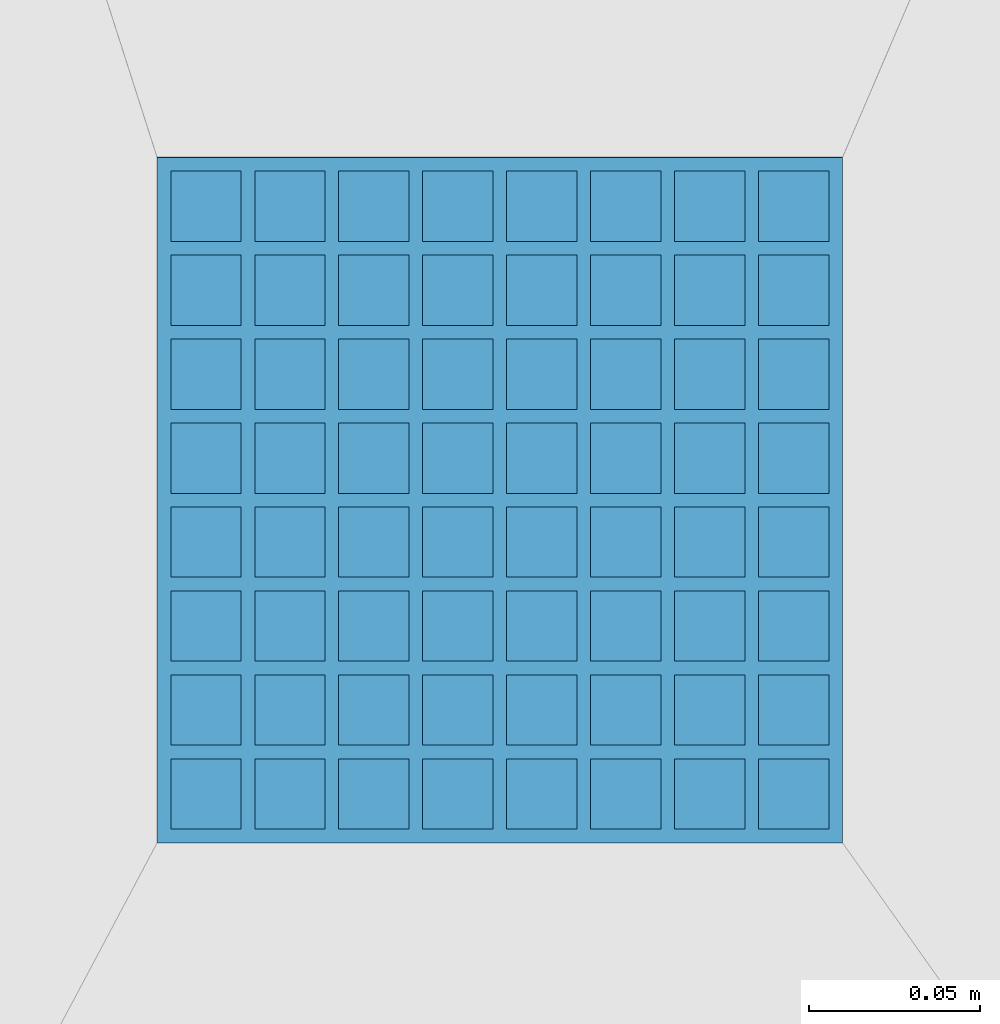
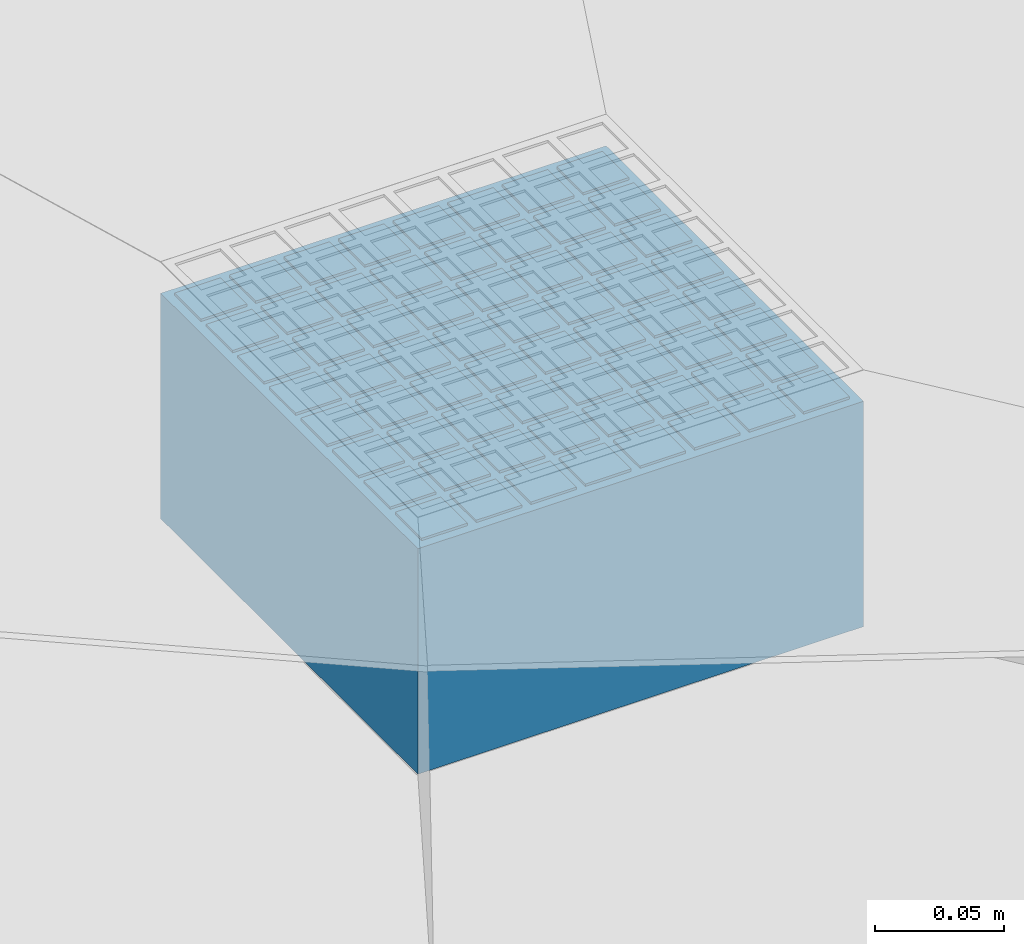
# One storey, part 150 of 418: 1 building element part, 1 element without a shape of its own.
"""IFC2X3 building model written with IfcOpenShell, lengths in millimetres."""

from ifc_helpers import new_model, entity, si_unit, converted_unit, derived_unit, money_unit, direction, frame, origin_with_axes, place, context, subcontext, project, spatial, polyline, outline, extrude, boolean, faceted_brep, material, type_object, element, aggregate, save


model = new_model("IFC2X3")

# Units and contexts
model_context = context("Model", 3, precision=0.01, world=origin_with_axes(), true_north=direction((0.0, 1.0)))
body_context = subcontext(model_context, "Body", "Model", "MODEL_VIEW")
ifc_project = project(units=[si_unit("LENGTHUNIT", "METRE", prefix="MILLI"), si_unit("AREAUNIT", "SQUARE_METRE"), si_unit("VOLUMEUNIT", "CUBIC_METRE"), converted_unit("PLANEANGLEUNIT", "DEGREE", entity("IfcPlaneAngleMeasure", 0.0174532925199), si_unit("PLANEANGLEUNIT", "RADIAN"), dimensions=[0, 0, 0, 0, 0, 0, 0]), si_unit("SOLIDANGLEUNIT", "STERADIAN"), money_unit("EUR"), converted_unit("TIMEUNIT", "Year", entity("IfcTimeMeasure", 31556926.0), si_unit("TIMEUNIT", "SECOND"), dimensions=[0, 0, 1, 0, 0, 0, 0]), si_unit("MASSUNIT", "GRAM", prefix="KILO"), si_unit("THERMODYNAMICTEMPERATUREUNIT", "DEGREE_CELSIUS"), si_unit("LUMINOUSINTENSITYUNIT", "LUMEN"), si_unit("ENERGYUNIT", "JOULE", prefix="MEGA"), derived_unit("THERMALCONDUCTANCEUNIT", [(si_unit("POWERUNIT", "WATT"), 1), (si_unit("LENGTHUNIT", "METRE"), -1), (si_unit("THERMODYNAMICTEMPERATUREUNIT", "KELVIN"), -1)]), derived_unit("SPECIFICHEATCAPACITYUNIT", [(si_unit("ENERGYUNIT", "JOULE"), 1), (si_unit("MASSUNIT", "GRAM", prefix="KILO"), -1), (si_unit("THERMODYNAMICTEMPERATUREUNIT", "KELVIN"), -1)]), derived_unit("MASSDENSITYUNIT", [(si_unit("MASSUNIT", "GRAM", prefix="KILO"), 1), (si_unit("VOLUMEUNIT", "CUBIC_METRE"), -1)])], contexts=[model_context])

# Site, building, storey
site_placement = place(None, origin_with_axes())
site = spatial("IfcSite", under=ifc_project, at=site_placement, Name="Paldiski mnt 245/1, Tallinn, Harjumaa", CompositionType="COMPLEX")
building_placement = place(site_placement, origin_with_axes())
building = spatial("IfcBuilding", under=site, at=building_placement, Name="RKAS Hoone üldnimetus (kasutust iseloomustav) -> IFC Project Manager -> SOLIBRI", CompositionType="ELEMENT")
storey_placement = place(building_placement, origin_with_axes())
storey = spatial("IfcBuildingStorey", under=building, at=storey_placement, Name="Esimene korrus", CompositionType="ELEMENT", Elevation=0.0)

# Plate, building element part
plate_type = type_object("IfcPlateType", Name="AP-02 pealiskihid 222", PredefinedType="NOTDEFINED")
plate_placement = place(storey_placement, frame((-55989.9999767, 995.071901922, 177.902209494), z_axis=(0.0, 0.0, 1.0), x_axis=(1.0, 0.0, 0.0)))
plate = element("IfcPlate", 1, at=plate_placement, inside=storey, type_object=plate_type, Name="Põranda soojustus")
ifc_material = material(Name="Põhisoojustus, Eurothane Silver E 120 mm")
building_element_part_placement = place(plate_placement, origin_with_axes())
building_element_part = element("IfcBuildingElementPart", 2, at=building_element_part_placement, material=ifc_material, Name="Põhisoojustus, Eurothane Silver E 120 mm", context=body_context, shape_type="CSG", body=[
    boolean("DIFFERENCE", boolean("DIFFERENCE", boolean("DIFFERENCE", extrude(outline(polyline([(200.0, 0.0), (0.0, 0.0), (0.0, -200.071908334), (200.0, -200.071908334), (200.0, 0.0)])), frame((0.0, 0.0, 100.0), z_axis=(0.0, 0.0, 1.0), x_axis=(1.0, 0.0, 0.0)), (0.0, 0.0, 1.0), 120.0), faceted_brep([(0.0, 0.0, 23.0977905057), (200.0, 0.0, 23.0977905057), (200.0, 0.0, 0.0), (0.0, 0.0, 0.0), (200.0, -200.071908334, 23.0977905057), (0.0, -200.071908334, 23.0977905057), (200.0, -200.071908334, 0.0), (0.0, -200.071908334, 0.0)], [[[0, 1, 2, 3]], [[4, 1, 0, 5]], [[1, 4, 6, 2]], [[3, 2, 6, 7]], [[5, 0, 3, 7]], [[4, 5, 7, 6]]])), faceted_brep([(200.0, -200.071908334, 207.0), (200.0, -0.0719083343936, 207.0), (200.0, -0.0719083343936, 220.0), (200.0, -200.071908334, 220.0), (3.99999999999, -196.071908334, 207.0), (0.0, -200.071908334, 207.0), (0.0, -0.0719083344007, 207.0), (196.0, -196.071908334, 207.0), (196.0, -175.571908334, 207.0), (196.0, -171.571908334, 207.0), (196.0, -151.071908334, 207.0), (196.0, -147.071908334, 207.0), (196.0, -126.571908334, 207.0), (196.0, -122.571908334, 207.0), (196.0, -102.071908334, 207.0), (196.0, -98.0719083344, 207.0), (196.0, -77.5719083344, 207.0), (196.0, -73.5719083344, 207.0), (196.0, -53.0719083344, 207.0), (196.0, -49.0719083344, 207.0), (196.0, -28.5719083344, 207.0), (196.0, -24.5719083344, 207.0), (196.0, -4.07190833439, 207.0), (175.5, -4.07190833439, 207.0), (171.5, -4.07190833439, 207.0), (151.0, -4.0719083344, 207.0), (147.0, -4.0719083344, 207.0), (126.5, -4.0719083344, 207.0), (122.5, -4.0719083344, 207.0), (102.0, -4.0719083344, 207.0), (98.0, -4.0719083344, 207.0), (77.5, -4.0719083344, 207.0), (73.5, -4.0719083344, 207.0), (53.0, -4.0719083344, 207.0), (49.0, -4.0719083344, 207.0), (28.5, -4.0719083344, 207.0), (24.5, -4.0719083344, 207.0), (3.99999999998, -4.0719083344, 207.0), (3.99999999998, -24.5719083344, 207.0), (3.99999999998, -28.5719083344, 207.0), (3.99999999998, -49.0719083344, 207.0), (3.99999999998, -53.0719083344, 207.0), (3.99999999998, -73.5719083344, 207.0), (3.99999999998, -77.5719083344, 207.0), (3.99999999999, -98.0719083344, 207.0), (3.99999999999, -102.071908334, 207.0), (3.99999999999, -122.571908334, 207.0), (3.99999999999, -126.571908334, 207.0), (3.99999999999, -147.071908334, 207.0), (3.99999999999, -151.071908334, 207.0), (3.99999999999, -171.571908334, 207.0), (3.99999999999, -175.571908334, 207.0), (0.0, -0.0719083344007, 220.0), (0.0, -200.071908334, 220.0), (24.5, -196.071908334, 207.0), (24.5, -175.571908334, 207.0), (24.5, -171.571908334, 207.0), (24.5, -151.071908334, 207.0), (24.5, -147.071908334, 207.0), (24.5, -126.571908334, 207.0), (24.5, -122.571908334, 207.0), (24.5, -102.071908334, 207.0), (24.5, -98.0719083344, 207.0), (24.5, -77.5719083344, 207.0), (24.5, -73.5719083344, 207.0), (24.5, -53.0719083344, 207.0), (24.5, -49.0719083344, 207.0), (24.5, -28.5719083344, 207.0), (24.5, -24.5719083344, 207.0), (28.5, -24.5719083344, 207.0), (28.5, -28.5719083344, 207.0), (28.5, -49.0719083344, 207.0), (28.5, -53.0719083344, 207.0), (28.5, -73.5719083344, 207.0), (28.5, -77.5719083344, 207.0), (28.5, -98.0719083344, 207.0), (28.5, -102.071908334, 207.0), (28.5, -122.571908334, 207.0), (28.5, -126.571908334, 207.0), (28.5, -147.071908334, 207.0), (28.5, -151.071908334, 207.0), (28.5, -171.571908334, 207.0), (28.5, -175.571908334, 207.0), (28.5, -196.071908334, 207.0), (49.0, -196.071908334, 207.0), (49.0, -175.571908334, 207.0), (49.0, -171.571908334, 207.0), (49.0, -151.071908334, 207.0), (49.0, -147.071908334, 207.0), (49.0, -126.571908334, 207.0), (49.0, -122.571908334, 207.0), (49.0, -102.071908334, 207.0), (49.0, -98.0719083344, 207.0), (49.0, -77.5719083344, 207.0), (49.0, -73.5719083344, 207.0), (49.0, -53.0719083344, 207.0), (49.0, -49.0719083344, 207.0), (49.0, -28.5719083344, 207.0), (49.0, -24.5719083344, 207.0), (53.0, -24.5719083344, 207.0), (53.0, -28.5719083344, 207.0), (53.0, -49.0719083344, 207.0), (53.0, -53.0719083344, 207.0), (53.0, -73.5719083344, 207.0), (53.0, -77.5719083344, 207.0), (53.0, -98.0719083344, 207.0), (53.0, -102.071908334, 207.0), (53.0, -122.571908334, 207.0), (53.0, -126.571908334, 207.0), (53.0, -147.071908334, 207.0), (53.0, -151.071908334, 207.0), (53.0, -171.571908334, 207.0), (53.0, -175.571908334, 207.0), (53.0, -196.071908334, 207.0), (73.5, -196.071908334, 207.0), (73.5, -175.571908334, 207.0), (73.5, -171.571908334, 207.0), (73.5, -151.071908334, 207.0), (73.5, -147.071908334, 207.0), (73.5, -126.571908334, 207.0), (73.5, -122.571908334, 207.0), (73.5, -102.071908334, 207.0), (73.5, -98.0719083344, 207.0), (73.5, -77.5719083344, 207.0), (73.5, -73.5719083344, 207.0), (73.5, -53.0719083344, 207.0), (73.5, -49.0719083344, 207.0), (73.5, -28.5719083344, 207.0), (73.5, -24.5719083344, 207.0), (77.5, -24.5719083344, 207.0), (77.5, -28.5719083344, 207.0), (77.5, -49.0719083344, 207.0), (77.5, -53.0719083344, 207.0), (77.5, -73.5719083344, 207.0), (77.5, -77.5719083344, 207.0), (77.5, -98.0719083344, 207.0), (77.5, -102.071908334, 207.0), (77.5, -122.571908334, 207.0), (77.5, -126.571908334, 207.0), (77.5, -147.071908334, 207.0), (77.5, -151.071908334, 207.0), (77.5, -171.571908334, 207.0), (77.5, -175.571908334, 207.0), (77.5, -196.071908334, 207.0), (98.0, -196.071908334, 207.0), (98.0, -175.571908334, 207.0), (98.0, -171.571908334, 207.0), (98.0, -151.071908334, 207.0), (98.0, -147.071908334, 207.0), (98.0, -126.571908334, 207.0), (98.0, -122.571908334, 207.0), (98.0, -102.071908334, 207.0), (98.0, -98.0719083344, 207.0), (98.0, -77.5719083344, 207.0), (98.0, -73.5719083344, 207.0), (98.0, -53.0719083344, 207.0), (98.0, -49.0719083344, 207.0), (98.0, -28.5719083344, 207.0), (98.0, -24.5719083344, 207.0), (102.0, -24.5719083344, 207.0), (102.0, -28.5719083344, 207.0), (102.0, -49.0719083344, 207.0), (102.0, -53.0719083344, 207.0), (102.0, -73.5719083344, 207.0), (102.0, -77.5719083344, 207.0), (102.0, -98.0719083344, 207.0), (102.0, -102.071908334, 207.0), (102.0, -122.571908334, 207.0), (102.0, -126.571908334, 207.0), (102.0, -147.071908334, 207.0), (102.0, -151.071908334, 207.0), (102.0, -171.571908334, 207.0), (102.0, -175.571908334, 207.0), (102.0, -196.071908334, 207.0), (122.5, -196.071908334, 207.0), (122.5, -175.571908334, 207.0), (122.5, -171.571908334, 207.0), (122.5, -151.071908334, 207.0), (122.5, -147.071908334, 207.0), (122.5, -126.571908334, 207.0), (122.5, -122.571908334, 207.0), (122.5, -102.071908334, 207.0), (122.5, -98.0719083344, 207.0), (122.5, -77.5719083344, 207.0), (122.5, -73.5719083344, 207.0), (122.5, -53.0719083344, 207.0), (122.5, -49.0719083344, 207.0), (122.5, -28.5719083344, 207.0), (122.5, -24.5719083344, 207.0), (126.5, -24.5719083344, 207.0), (126.5, -28.5719083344, 207.0), (126.5, -49.0719083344, 207.0), (126.5, -53.0719083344, 207.0), (126.5, -73.5719083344, 207.0), (126.5, -77.5719083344, 207.0), (126.5, -98.0719083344, 207.0), (126.5, -102.071908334, 207.0), (126.5, -122.571908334, 207.0), (126.5, -126.571908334, 207.0), (126.5, -147.071908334, 207.0), (126.5, -151.071908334, 207.0), (126.5, -171.571908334, 207.0), (126.5, -175.571908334, 207.0), (126.5, -196.071908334, 207.0), (147.0, -196.071908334, 207.0), (147.0, -175.571908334, 207.0), (147.0, -171.571908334, 207.0), (147.0, -151.071908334, 207.0), (147.0, -147.071908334, 207.0), (147.0, -126.571908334, 207.0), (147.0, -122.571908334, 207.0), (147.0, -102.071908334, 207.0), (147.0, -98.0719083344, 207.0), (147.0, -77.5719083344, 207.0), (147.0, -73.5719083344, 207.0), (147.0, -53.0719083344, 207.0), (147.0, -49.0719083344, 207.0), (147.0, -28.5719083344, 207.0), (147.0, -24.5719083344, 207.0), (151.0, -24.5719083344, 207.0), (151.0, -28.5719083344, 207.0), (151.0, -49.0719083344, 207.0), (151.0, -53.0719083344, 207.0), (151.0, -73.5719083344, 207.0), (151.0, -77.5719083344, 207.0), (151.0, -98.0719083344, 207.0), (151.0, -102.071908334, 207.0), (151.0, -122.571908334, 207.0), (151.0, -126.571908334, 207.0), (151.0, -147.071908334, 207.0), (151.0, -151.071908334, 207.0), (151.0, -171.571908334, 207.0), (151.0, -175.571908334, 207.0), (151.0, -196.071908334, 207.0), (171.5, -196.071908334, 207.0), (171.5, -175.571908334, 207.0), (171.5, -171.571908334, 207.0), (171.5, -151.071908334, 207.0), (171.5, -147.071908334, 207.0), (171.5, -126.571908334, 207.0), (171.5, -122.571908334, 207.0), (171.5, -102.071908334, 207.0), (171.5, -98.0719083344, 207.0), (171.5, -77.5719083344, 207.0), (171.5, -73.5719083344, 207.0), (171.5, -53.0719083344, 207.0), (171.5, -49.0719083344, 207.0), (171.5, -28.5719083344, 207.0), (171.5, -24.5719083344, 207.0), (175.5, -24.5719083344, 207.0), (175.5, -28.5719083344, 207.0), (175.5, -49.0719083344, 207.0), (175.5, -53.0719083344, 207.0), (175.5, -73.5719083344, 207.0), (175.5, -77.5719083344, 207.0), (175.5, -98.0719083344, 207.0), (175.5, -102.071908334, 207.0), (175.5, -122.571908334, 207.0), (175.5, -126.571908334, 207.0), (175.5, -147.071908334, 207.0), (175.5, -151.071908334, 207.0), (175.5, -171.571908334, 207.0), (175.5, -175.571908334, 207.0), (175.5, -196.071908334, 207.0), (196.0, -196.071908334, 208.15), (196.0, -175.571908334, 208.15), (196.0, -171.571908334, 208.15), (196.0, -151.071908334, 208.15), (196.0, -147.071908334, 208.15), (196.0, -126.571908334, 208.15), (196.0, -122.571908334, 208.15), (196.0, -102.071908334, 208.15), (196.0, -98.0719083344, 208.15), (196.0, -77.5719083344, 208.15), (196.0, -73.5719083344, 208.15), (196.0, -53.0719083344, 208.15), (196.0, -49.0719083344, 208.15), (196.0, -28.5719083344, 208.15), (196.0, -24.5719083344, 208.15), (196.0, -4.07190833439, 208.15), (175.5, -4.07190833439, 208.15), (171.5, -4.07190833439, 208.15), (151.0, -4.0719083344, 208.15), (147.0, -4.0719083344, 208.15), (126.5, -4.0719083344, 208.15), (122.5, -4.0719083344, 208.15), (102.0, -4.0719083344, 208.15), (98.0, -4.0719083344, 208.15), (77.5, -4.0719083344, 208.15), (73.5, -4.0719083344, 208.15), (53.0, -4.0719083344, 208.15), (49.0, -4.0719083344, 208.15), (28.5, -4.0719083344, 208.15), (24.5, -4.0719083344, 208.15), (3.99999999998, -4.0719083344, 208.15), (3.99999999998, -24.5719083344, 208.15), (3.99999999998, -28.5719083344, 208.15), (3.99999999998, -49.0719083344, 208.15), (3.99999999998, -53.0719083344, 208.15), (3.99999999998, -73.5719083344, 208.15), (3.99999999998, -77.5719083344, 208.15), (3.99999999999, -98.0719083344, 208.15), (3.99999999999, -102.071908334, 208.15), (3.99999999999, -122.571908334, 208.15), (3.99999999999, -126.571908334, 208.15), (3.99999999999, -147.071908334, 208.15), (3.99999999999, -151.071908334, 208.15), (3.99999999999, -171.571908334, 208.15), (3.99999999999, -175.571908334, 208.15), (3.99999999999, -196.071908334, 208.15), (24.5, -196.071908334, 208.15), (24.5, -175.571908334, 208.15), (24.5, -171.571908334, 208.15), (24.5, -151.071908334, 208.15), (24.5, -147.071908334, 208.15), (24.5, -126.571908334, 208.15), (24.5, -122.571908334, 208.15), (24.5, -102.071908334, 208.15), (24.5, -98.0719083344, 208.15), (24.5, -77.5719083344, 208.15), (24.5, -73.5719083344, 208.15), (24.5, -53.0719083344, 208.15), (24.5, -49.0719083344, 208.15), (24.5, -28.5719083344, 208.15), (24.5, -24.5719083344, 208.15), (28.5, -24.5719083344, 208.15), (28.5, -28.5719083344, 208.15), (28.5, -49.0719083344, 208.15), (28.5, -53.0719083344, 208.15), (28.5, -73.5719083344, 208.15), (28.5, -77.5719083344, 208.15), (28.5, -98.0719083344, 208.15), (28.5, -102.071908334, 208.15), (28.5, -122.571908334, 208.15), (28.5, -126.571908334, 208.15), (28.5, -147.071908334, 208.15), (28.5, -151.071908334, 208.15), (28.5, -171.571908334, 208.15), (28.5, -175.571908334, 208.15), (28.5, -196.071908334, 208.15), (49.0, -196.071908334, 208.15), (49.0, -175.571908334, 208.15), (49.0, -171.571908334, 208.15), (49.0, -151.071908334, 208.15), (49.0, -147.071908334, 208.15), (49.0, -126.571908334, 208.15), (49.0, -122.571908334, 208.15), (49.0, -102.071908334, 208.15), (49.0, -98.0719083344, 208.15), (49.0, -77.5719083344, 208.15), (49.0, -73.5719083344, 208.15), (49.0, -53.0719083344, 208.15), (49.0, -49.0719083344, 208.15), (49.0, -28.5719083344, 208.15), (49.0, -24.5719083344, 208.15), (53.0, -24.5719083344, 208.15), (53.0, -28.5719083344, 208.15), (53.0, -49.0719083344, 208.15), (53.0, -53.0719083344, 208.15), (53.0, -73.5719083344, 208.15), (53.0, -77.5719083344, 208.15), (53.0, -98.0719083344, 208.15), (53.0, -102.071908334, 208.15), (53.0, -122.571908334, 208.15), (53.0, -126.571908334, 208.15), (53.0, -147.071908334, 208.15), (53.0, -151.071908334, 208.15), (53.0, -171.571908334, 208.15), (53.0, -175.571908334, 208.15), (53.0, -196.071908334, 208.15), (73.5, -196.071908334, 208.15), (73.5, -175.571908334, 208.15), (73.5, -171.571908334, 208.15), (73.5, -151.071908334, 208.15), (73.5, -147.071908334, 208.15), (73.5, -126.571908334, 208.15), (73.5, -122.571908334, 208.15), (73.5, -102.071908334, 208.15), (73.5, -98.0719083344, 208.15), (73.5, -77.5719083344, 208.15), (73.5, -73.5719083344, 208.15), (73.5, -53.0719083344, 208.15), (73.5, -49.0719083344, 208.15), (73.5, -28.5719083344, 208.15), (73.5, -24.5719083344, 208.15), (77.5, -24.5719083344, 208.15), (77.5, -28.5719083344, 208.15), (77.5, -49.0719083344, 208.15), (77.5, -53.0719083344, 208.15), (77.5, -73.5719083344, 208.15), (77.5, -77.5719083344, 208.15), (77.5, -98.0719083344, 208.15), (77.5, -102.071908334, 208.15), (77.5, -122.571908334, 208.15), (77.5, -126.571908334, 208.15), (77.5, -147.071908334, 208.15), (77.5, -151.071908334, 208.15), (77.5, -171.571908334, 208.15), (77.5, -175.571908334, 208.15), (77.5, -196.071908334, 208.15), (98.0, -196.071908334, 208.15), (98.0, -175.571908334, 208.15), (98.0, -171.571908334, 208.15), (98.0, -151.071908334, 208.15), (98.0, -147.071908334, 208.15), (98.0, -126.571908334, 208.15), (98.0, -122.571908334, 208.15), (98.0, -102.071908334, 208.15), (98.0, -98.0719083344, 208.15), (98.0, -77.5719083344, 208.15), (98.0, -73.5719083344, 208.15), (98.0, -53.0719083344, 208.15), (98.0, -49.0719083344, 208.15), (98.0, -28.5719083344, 208.15), (98.0, -24.5719083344, 208.15), (102.0, -24.5719083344, 208.15), (102.0, -28.5719083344, 208.15), (102.0, -49.0719083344, 208.15), (102.0, -53.0719083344, 208.15), (102.0, -73.5719083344, 208.15), (102.0, -77.5719083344, 208.15), (102.0, -98.0719083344, 208.15), (102.0, -102.071908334, 208.15), (102.0, -122.571908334, 208.15), (102.0, -126.571908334, 208.15), (102.0, -147.071908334, 208.15), (102.0, -151.071908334, 208.15), (102.0, -171.571908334, 208.15), (102.0, -175.571908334, 208.15), (102.0, -196.071908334, 208.15), (122.5, -196.071908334, 208.15), (122.5, -175.571908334, 208.15), (122.5, -171.571908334, 208.15), (122.5, -151.071908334, 208.15), (122.5, -147.071908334, 208.15), (122.5, -126.571908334, 208.15), (122.5, -122.571908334, 208.15), (122.5, -102.071908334, 208.15), (122.5, -98.0719083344, 208.15), (122.5, -77.5719083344, 208.15), (122.5, -73.5719083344, 208.15), (122.5, -53.0719083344, 208.15), (122.5, -49.0719083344, 208.15), (122.5, -28.5719083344, 208.15), (122.5, -24.5719083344, 208.15), (126.5, -24.5719083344, 208.15), (126.5, -28.5719083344, 208.15), (126.5, -49.0719083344, 208.15), (126.5, -53.0719083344, 208.15), (126.5, -73.5719083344, 208.15), (126.5, -77.5719083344, 208.15), (126.5, -98.0719083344, 208.15), (126.5, -102.071908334, 208.15), (126.5, -122.571908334, 208.15), (126.5, -126.571908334, 208.15), (126.5, -147.071908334, 208.15), (126.5, -151.071908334, 208.15), (126.5, -171.571908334, 208.15), (126.5, -175.571908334, 208.15), (126.5, -196.071908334, 208.15), (147.0, -196.071908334, 208.15), (147.0, -175.571908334, 208.15), (147.0, -171.571908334, 208.15), (147.0, -151.071908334, 208.15), (147.0, -147.071908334, 208.15), (147.0, -126.571908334, 208.15), (147.0, -122.571908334, 208.15), (147.0, -102.071908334, 208.15), (147.0, -98.0719083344, 208.15), (147.0, -77.5719083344, 208.15), (147.0, -73.5719083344, 208.15), (147.0, -53.0719083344, 208.15), (147.0, -49.0719083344, 208.15), (147.0, -28.5719083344, 208.15), (147.0, -24.5719083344, 208.15), (151.0, -24.5719083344, 208.15), (151.0, -28.5719083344, 208.15), (151.0, -49.0719083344, 208.15), (151.0, -53.0719083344, 208.15), (151.0, -73.5719083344, 208.15), (151.0, -77.5719083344, 208.15), (151.0, -98.0719083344, 208.15), (151.0, -102.071908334, 208.15), (151.0, -122.571908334, 208.15), (151.0, -126.571908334, 208.15), (151.0, -147.071908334, 208.15), (151.0, -151.071908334, 208.15), (151.0, -171.571908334, 208.15), (151.0, -175.571908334, 208.15), (151.0, -196.071908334, 208.15), (171.5, -196.071908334, 208.15), (171.5, -175.571908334, 208.15), (171.5, -171.571908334, 208.15), (171.5, -151.071908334, 208.15), (171.5, -147.071908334, 208.15), (171.5, -126.571908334, 208.15), (171.5, -122.571908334, 208.15), (171.5, -102.071908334, 208.15), (171.5, -98.0719083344, 208.15), (171.5, -77.5719083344, 208.15), (171.5, -73.5719083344, 208.15), (171.5, -53.0719083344, 208.15), (171.5, -49.0719083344, 208.15), (171.5, -28.5719083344, 208.15), (171.5, -24.5719083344, 208.15), (175.5, -24.5719083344, 208.15), (175.5, -28.5719083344, 208.15), (175.5, -49.0719083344, 208.15), (175.5, -53.0719083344, 208.15), (175.5, -73.5719083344, 208.15), (175.5, -77.5719083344, 208.15), (175.5, -98.0719083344, 208.15), (175.5, -102.071908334, 208.15), (175.5, -122.571908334, 208.15), (175.5, -126.571908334, 208.15), (175.5, -147.071908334, 208.15), (175.5, -151.071908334, 208.15), (175.5, -171.571908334, 208.15), (175.5, -175.571908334, 208.15), (175.5, -196.071908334, 208.15)], [[[0, 1, 2, 3]], [[4, 5, 6, 1, 0, 7, 8, 9, 10, 11, 12, 13, 14, 15, 16, 17, 18, 19, 20, 21, 22, 23, 24, 25, 26, 27, 28, 29, 30, 31, 32, 33, 34, 35, 36, 37, 38, 39, 40, 41, 42, 43, 44, 45, 46, 47, 48, 49, 50, 51]], [[52, 2, 1, 6]], [[2, 52, 53, 3]], [[5, 0, 3, 53]], [[5, 4, 54, 55, 56, 57, 58, 59, 60, 61, 62, 63, 64, 65, 66, 67, 68, 36, 35, 69, 70, 71, 72, 73, 74, 75, 76, 77, 78, 79, 80, 81, 82, 83, 84, 85, 86, 87, 88, 89, 90, 91, 92, 93, 94, 95, 96, 97, 98, 34, 33, 99, 100, 101, 102, 103, 104, 105, 106, 107, 108, 109, 110, 111, 112, 113, 114, 115, 116, 117, 118, 119, 120, 121, 122, 123, 124, 125, 126, 127, 128, 32, 31, 129, 130, 131, 132, 133, 134, 135, 136, 137, 138, 139, 140, 141, 142, 143, 144, 145, 146, 147, 148, 149, 150, 151, 152, 153, 154, 155, 156, 157, 158, 30, 29, 159, 160, 161, 162, 163, 164, 165, 166, 167, 168, 169, 170, 171, 172, 173, 174, 175, 176, 177, 178, 179, 180, 181, 182, 183, 184, 185, 186, 187, 188, 28, 27, 189, 190, 191, 192, 193, 194, 195, 196, 197, 198, 199, 200, 201, 202, 203, 204, 205, 206, 207, 208, 209, 210, 211, 212, 213, 214, 215, 216, 217, 218, 26, 25, 219, 220, 221, 222, 223, 224, 225, 226, 227, 228, 229, 230, 231, 232, 233, 234, 235, 236, 237, 238, 239, 240, 241, 242, 243, 244, 245, 246, 247, 248, 24, 23, 249, 250, 251, 252, 253, 254, 255, 256, 257, 258, 259, 260, 261, 262, 263, 7, 0]], [[6, 5, 53, 52]], [[8, 7, 264, 265]], [[9, 8, 262, 261]], [[10, 9, 266, 267]], [[260, 259, 11, 10]], [[12, 11, 268, 269]], [[258, 257, 13, 12]], [[14, 13, 270, 271]], [[256, 255, 15, 14]], [[16, 15, 272, 273]], [[17, 16, 254, 253]], [[18, 17, 274, 275]], [[252, 251, 19, 18]], [[20, 19, 276, 277]], [[249, 21, 20, 250]], [[22, 21, 278, 279]], [[23, 22, 279, 280]], [[25, 24, 281, 282]], [[27, 26, 283, 284]], [[29, 28, 285, 286]], [[31, 30, 287, 288]], [[33, 32, 289, 290]], [[35, 34, 291, 292]], [[37, 36, 293, 294]], [[38, 37, 294, 295]], [[68, 67, 39, 38]], [[40, 39, 296, 297]], [[66, 65, 41, 40]], [[42, 41, 298, 299]], [[43, 42, 64, 63]], [[44, 43, 300, 301]], [[44, 62, 61, 45]], [[46, 45, 302, 303]], [[46, 60, 59, 47]], [[48, 47, 304, 305]], [[48, 58, 57, 49]], [[50, 49, 306, 307]], [[50, 56, 55, 51]], [[4, 51, 308, 309]], [[309, 310, 54, 4]], [[55, 54, 310, 311]], [[57, 56, 312, 313]], [[59, 58, 314, 315]], [[61, 60, 316, 317]], [[63, 62, 318, 319]], [[65, 64, 320, 321]], [[67, 66, 322, 323]], [[324, 293, 36, 68]], [[69, 35, 292, 325]], [[98, 97, 70, 69]], [[71, 70, 326, 327]], [[96, 95, 72, 71]], [[73, 72, 328, 329]], [[94, 93, 74, 73]], [[75, 74, 330, 331]], [[92, 91, 76, 75]], [[77, 76, 332, 333]], [[77, 90, 89, 78]], [[79, 78, 334, 335]], [[79, 88, 87, 80]], [[81, 80, 336, 337]], [[81, 86, 85, 82]], [[83, 82, 338, 339]], [[339, 340, 84, 83]], [[85, 84, 340, 341]], [[87, 86, 342, 343]], [[89, 88, 344, 345]], [[91, 90, 346, 347]], [[93, 92, 348, 349]], [[95, 94, 350, 351]], [[97, 96, 352, 353]], [[354, 291, 34, 98]], [[99, 33, 290, 355]], [[99, 128, 127, 100]], [[101, 100, 356, 357]], [[126, 125, 102, 101]], [[103, 102, 358, 359]], [[103, 124, 123, 104]], [[105, 104, 360, 361]], [[106, 105, 122, 121]], [[107, 106, 362, 363]], [[120, 119, 108, 107]], [[109, 108, 364, 365]], [[109, 118, 117, 110]], [[111, 110, 366, 367]], [[116, 115, 112, 111]], [[113, 112, 368, 369]], [[369, 370, 114, 113]], [[115, 114, 370, 371]], [[117, 116, 372, 373]], [[119, 118, 374, 375]], [[121, 120, 376, 377]], [[123, 122, 378, 379]], [[125, 124, 380, 381]], [[127, 126, 382, 383]], [[384, 289, 32, 128]], [[288, 385, 129, 31]], [[158, 157, 130, 129]], [[131, 130, 386, 387]], [[131, 156, 155, 132]], [[133, 132, 388, 389]], [[133, 154, 153, 134]], [[135, 134, 390, 391]], [[136, 135, 152, 151]], [[137, 136, 392, 393]], [[150, 149, 138, 137]], [[139, 138, 394, 395]], [[148, 147, 140, 139]], [[141, 140, 396, 397]], [[146, 145, 142, 141]], [[143, 142, 398, 399]], [[399, 400, 144, 143]], [[145, 144, 400, 401]], [[147, 146, 402, 403]], [[149, 148, 404, 405]], [[151, 150, 406, 407]], [[153, 152, 408, 409]], [[155, 154, 410, 411]], [[157, 156, 412, 413]], [[30, 158, 414, 287]], [[159, 29, 286, 415]], [[159, 188, 187, 160]], [[161, 160, 416, 417]], [[161, 186, 185, 162]], [[163, 162, 418, 419]], [[163, 184, 183, 164]], [[165, 164, 420, 421]], [[165, 182, 181, 166]], [[167, 166, 422, 423]], [[180, 179, 168, 167]], [[169, 168, 424, 425]], [[178, 177, 170, 169]], [[171, 170, 426, 427]], [[171, 176, 175, 172]], [[173, 172, 428, 429]], [[429, 430, 174, 173]], [[175, 174, 430, 431]], [[177, 176, 432, 433]], [[179, 178, 434, 435]], [[181, 180, 436, 437]], [[183, 182, 438, 439]], [[185, 184, 440, 441]], [[187, 186, 442, 443]], [[444, 285, 28, 188]], [[189, 27, 284, 445]], [[218, 217, 190, 189]], [[191, 190, 446, 447]], [[216, 215, 192, 191]], [[193, 192, 448, 449]], [[214, 213, 194, 193]], [[195, 194, 450, 451]], [[212, 211, 196, 195]], [[197, 196, 452, 453]], [[210, 209, 198, 197]], [[199, 198, 454, 455]], [[199, 208, 207, 200]], [[201, 200, 456, 457]], [[206, 205, 202, 201]], [[203, 202, 458, 459]], [[459, 460, 204, 203]], [[205, 204, 460, 461]], [[207, 206, 462, 463]], [[209, 208, 464, 465]], [[211, 210, 466, 467]], [[213, 212, 468, 469]], [[215, 214, 470, 471]], [[217, 216, 472, 473]], [[474, 283, 26, 218]], [[219, 25, 282, 475]], [[248, 247, 220, 219]], [[221, 220, 476, 477]], [[222, 221, 246, 245]], [[223, 222, 478, 479]], [[224, 223, 244, 243]], [[225, 224, 480, 481]], [[226, 225, 242, 241]], [[227, 226, 482, 483]], [[240, 239, 228, 227]], [[229, 228, 484, 485]], [[238, 237, 230, 229]], [[231, 230, 486, 487]], [[236, 235, 232, 231]], [[233, 232, 488, 489]], [[489, 490, 234, 233]], [[235, 234, 490, 491]], [[237, 236, 492, 493]], [[239, 238, 494, 495]], [[241, 240, 496, 497]], [[243, 242, 498, 499]], [[245, 244, 500, 501]], [[247, 246, 502, 503]], [[504, 281, 24, 248]], [[280, 505, 249, 23]], [[251, 250, 506, 507]], [[253, 252, 508, 509]], [[255, 254, 510, 511]], [[257, 256, 512, 513]], [[259, 258, 514, 515]], [[261, 260, 516, 517]], [[263, 262, 518, 519]], [[519, 264, 7, 263]], [[518, 265, 264, 519]], [[262, 8, 265, 518]], [[517, 266, 9, 261]], [[267, 266, 517, 516]], [[260, 10, 267, 516]], [[515, 268, 11, 259]], [[515, 514, 269, 268]], [[258, 12, 269, 514]], [[513, 270, 13, 257]], [[271, 270, 513, 512]], [[256, 14, 271, 512]], [[511, 272, 15, 255]], [[273, 272, 511, 510]], [[254, 16, 273, 510]], [[509, 274, 17, 253]], [[275, 274, 509, 508]], [[252, 18, 275, 508]], [[507, 276, 19, 251]], [[277, 276, 507, 506]], [[250, 20, 277, 506]], [[505, 278, 21, 249]], [[280, 279, 278, 505]], [[475, 282, 281, 504]], [[445, 284, 283, 474]], [[415, 286, 285, 444]], [[287, 414, 385, 288]], [[355, 290, 289, 384]], [[325, 292, 291, 354]], [[295, 294, 293, 324]], [[295, 324, 68, 38]], [[39, 67, 323, 296]], [[296, 323, 322, 297]], [[297, 322, 66, 40]], [[41, 65, 321, 298]], [[299, 298, 321, 320]], [[299, 320, 64, 42]], [[43, 63, 319, 300]], [[301, 300, 319, 318]], [[301, 318, 62, 44]], [[45, 61, 317, 302]], [[303, 302, 317, 316]], [[303, 316, 60, 46]], [[47, 59, 315, 304]], [[305, 304, 315, 314]], [[305, 314, 58, 48]], [[49, 57, 313, 306]], [[307, 306, 313, 312]], [[307, 312, 56, 50]], [[51, 55, 311, 308]], [[309, 308, 311, 310]], [[325, 354, 98, 69]], [[70, 97, 353, 326]], [[326, 353, 352, 327]], [[327, 352, 96, 71]], [[72, 95, 351, 328]], [[328, 351, 350, 329]], [[329, 350, 94, 73]], [[74, 93, 349, 330]], [[349, 348, 331, 330]], [[331, 348, 92, 75]], [[76, 91, 347, 332]], [[332, 347, 346, 333]], [[333, 346, 90, 77]], [[78, 89, 345, 334]], [[335, 334, 345, 344]], [[335, 344, 88, 79]], [[80, 87, 343, 336]], [[343, 342, 337, 336]], [[337, 342, 86, 81]], [[82, 85, 341, 338]], [[338, 341, 340, 339]], [[355, 384, 128, 99]], [[100, 127, 383, 356]], [[356, 383, 382, 357]], [[357, 382, 126, 101]], [[102, 125, 381, 358]], [[381, 380, 359, 358]], [[359, 380, 124, 103]], [[104, 123, 379, 360]], [[379, 378, 361, 360]], [[361, 378, 122, 105]], [[106, 121, 377, 362]], [[362, 377, 376, 363]], [[363, 376, 120, 107]], [[108, 119, 375, 364]], [[375, 374, 365, 364]], [[365, 374, 118, 109]], [[110, 117, 373, 366]], [[367, 366, 373, 372]], [[367, 372, 116, 111]], [[112, 115, 371, 368]], [[369, 368, 371, 370]], [[385, 414, 158, 129]], [[130, 157, 413, 386]], [[386, 413, 412, 387]], [[387, 412, 156, 131]], [[132, 155, 411, 388]], [[389, 388, 411, 410]], [[389, 410, 154, 133]], [[134, 153, 409, 390]], [[391, 390, 409, 408]], [[391, 408, 152, 135]], [[136, 151, 407, 392]], [[407, 406, 393, 392]], [[393, 406, 150, 137]], [[138, 149, 405, 394]], [[405, 404, 395, 394]], [[395, 404, 148, 139]], [[140, 147, 403, 396]], [[396, 403, 402, 397]], [[397, 402, 146, 141]], [[142, 145, 401, 398]], [[398, 401, 400, 399]], [[415, 444, 188, 159]], [[160, 187, 443, 416]], [[416, 443, 442, 417]], [[417, 442, 186, 161]], [[162, 185, 441, 418]], [[441, 440, 419, 418]], [[419, 440, 184, 163]], [[164, 183, 439, 420]], [[439, 438, 421, 420]], [[421, 438, 182, 165]], [[166, 181, 437, 422]], [[437, 436, 423, 422]], [[423, 436, 180, 167]], [[168, 179, 435, 424]], [[435, 434, 425, 424]], [[425, 434, 178, 169]], [[170, 177, 433, 426]], [[427, 426, 433, 432]], [[427, 432, 176, 171]], [[172, 175, 431, 428]], [[429, 428, 431, 430]], [[445, 474, 218, 189]], [[190, 217, 473, 446]], [[447, 446, 473, 472]], [[447, 472, 216, 191]], [[192, 215, 471, 448]], [[449, 448, 471, 470]], [[449, 470, 214, 193]], [[194, 213, 469, 450]], [[451, 450, 469, 468]], [[451, 468, 212, 195]], [[196, 211, 467, 452]], [[452, 467, 466, 453]], [[453, 466, 210, 197]], [[198, 209, 465, 454]], [[455, 454, 465, 464]], [[455, 464, 208, 199]], [[200, 207, 463, 456]], [[457, 456, 463, 462]], [[457, 462, 206, 201]], [[202, 205, 461, 458]], [[458, 461, 460, 459]], [[475, 504, 248, 219]], [[220, 247, 503, 476]], [[503, 502, 477, 476]], [[477, 502, 246, 221]], [[222, 245, 501, 478]], [[501, 500, 479, 478]], [[479, 500, 244, 223]], [[224, 243, 499, 480]], [[499, 498, 481, 480]], [[481, 498, 242, 225]], [[226, 241, 497, 482]], [[482, 497, 496, 483]], [[483, 496, 240, 227]], [[228, 239, 495, 484]], [[495, 494, 485, 484]], [[485, 494, 238, 229]], [[230, 237, 493, 486]], [[493, 492, 487, 486]], [[487, 492, 236, 231]], [[232, 235, 491, 488]], [[488, 491, 490, 489]]])), faceted_brep([(200.0, -0.0719083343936, 220.0), (200.0, -0.0719083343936, 222.0), (200.0, -200.071908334, 222.0), (200.0, -200.071908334, 220.0), (0.0, -0.0719083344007, 222.0), (0.0, -0.0719083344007, 220.0), (0.0, -200.071908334, 222.0), (0.0, -200.071908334, 220.0)], [[[0, 1, 2, 3]], [[4, 1, 0, 5]], [[1, 4, 6, 2]], [[6, 7, 3, 2]], [[5, 0, 3, 7]], [[4, 5, 7, 6]]])),
])
aggregate(plate, [building_element_part])

save(model, "model.ifc")
